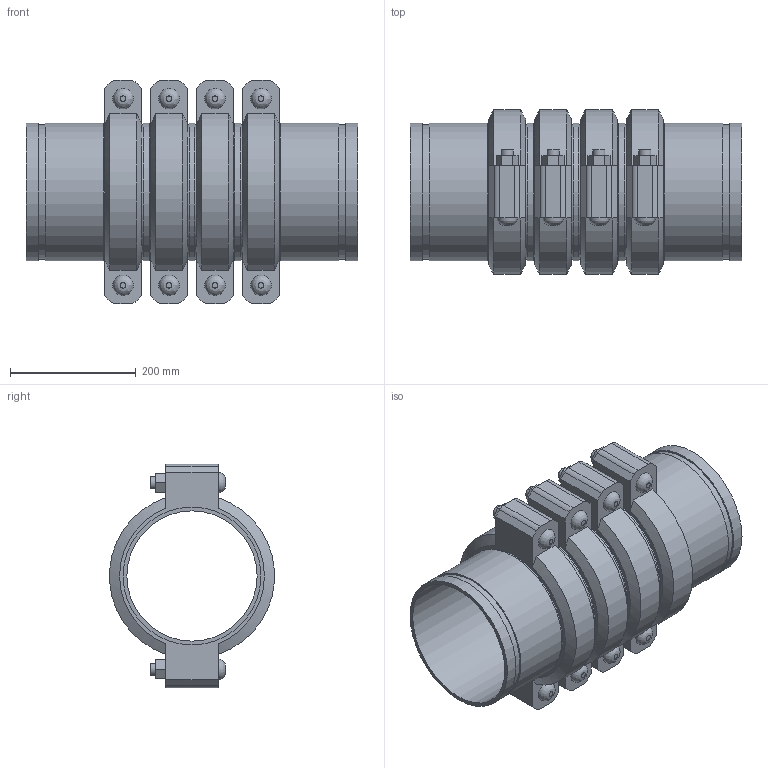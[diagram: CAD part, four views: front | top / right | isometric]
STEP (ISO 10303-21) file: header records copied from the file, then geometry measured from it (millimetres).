
FILE_DESCRIPTION(/* description */ ('VIC SS EXPANSION JOINT 4 COUPLINGS NEUTRAL STYLE 155P (OGS) (POTABLE WATER) ','CAx-IF Rec.Pracs.---Representation and Presentation of Product Manufacturing Information (PMI)---4.0---2014-10-13'),/* implementation_level */ '2;1');
FILE_NAME(/* name */ 'C:\Users\kkamble\AppData\Roaming\Autodesk\ApplicationPlugins\Victaulic.Temp\A324\Victaulic_SS_Expansion Joint_Neutral_4 Couplings_Style 155P (OGS)-Potable Water_4 Coup_Neut_8 (200).stp',/* time_stamp */ '2021-07-16T16:33:44+05:00',/* author */ ('kkamble'),/* organization */ ('Victaulic'),/* preprocessor_version */ 'ST-DEVELOPER v17.2',/* originating_system */ 'Autodesk Inventor 2019',/* authorisation */ '');
FILE_SCHEMA (('AP242_MANAGED_MODEL_BASED_3D_ENGINEERING_MIM_LF { 1 0 10303 442 1 1 4 }'));
Length unit declared in the file: inch
Products named in the file (4): 155P-08.0; Nipple-08.0; Nipple-08.0_1; 075-08.0
Assembly tree (9 placements, depth 2):
  155P-08.0
    Nipple-08.0  x2
    Nipple-08.0_1  x3
    075-08.0  x4
Bounding box: 527.05 x 261.72 x 354.84 mm (x, y, z)
Volume: 7400570.9 mm3; surface area: 1441206.6 mm2
Topology: 9 solids, 17 shells, 288 faces, 682 edges, 480 vertices
Faces by surface type: plane 174, cylinder 90, cone 16, bspline 8
Full cylindrical faces by diameter (mm): 19.05 x16, 21.209 x8, 206.985 x5, 212.725 x4, 214.401 x10, 219.075 x23
Entity records: 2785 total; most frequent: CARTESIAN_POINT 493, DIRECTION 461, ORIENTED_EDGE 386, EDGE_CURVE 193, AXIS2_PLACEMENT_3D 184, VERTEX_POINT 138, EDGE_LOOP 107, LINE 93
